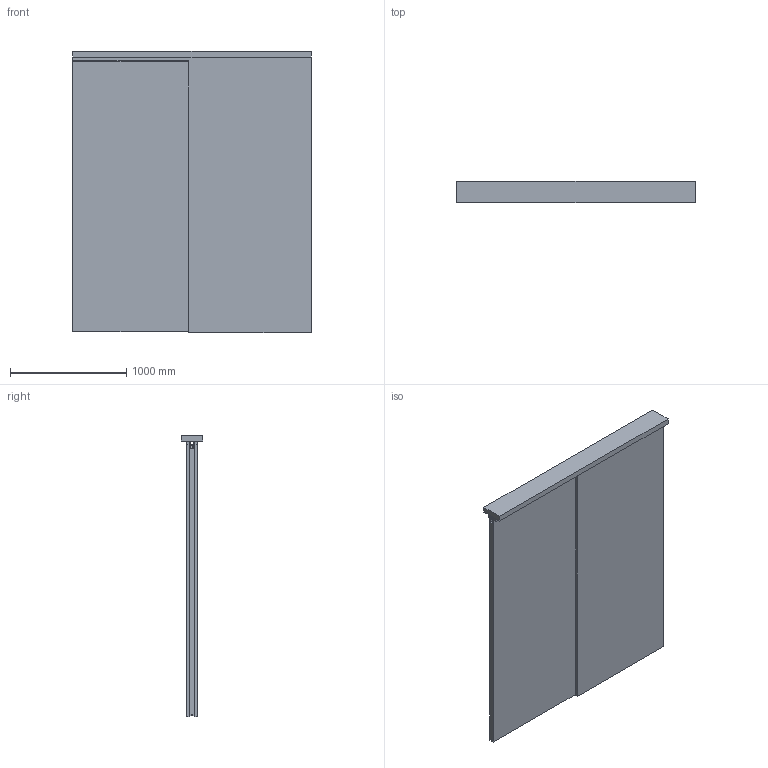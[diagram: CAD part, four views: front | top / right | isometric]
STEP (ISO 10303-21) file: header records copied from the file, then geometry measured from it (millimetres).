
FILE_DESCRIPTION(('STEP AP242'),'1');
FILE_NAME('OPO_65.080.12_volu_schn_3d.stp','2026-01-14T05:26:08',(' '),(' '),'Spatial InterOp 3D',' ',' ');
FILE_SCHEMA(('AP242_MANAGED_MODEL_BASED_3D_ENGINEERING_MIM_LF {1 0 10303 442 1 1 4}'));
Length unit declared in the file: millimetre
Products named in the file (1): 1
Bounding box: 2050 x 188 x 2418 mm (x, y, z)
Volume: 213877909.6 mm3; surface area: 17150395.4 mm2
Topology: 5 solids, 5 shells, 118 faces, 2310 edges, 4157 vertices
Faces by surface type: plane 94, cylinder 24
Entity records: 29177 total; most frequent: CARTESIAN_POINT 3000, DIRECTION 2853, STYLED_ITEM 2118, PRESENTATION_STYLE_ASSIGNMENT 2118, COLOUR_RGB 2118, COMPOSITE_CURVE 2000, CURVE_STYLE 2000, COMPOSITE_CURVE_SEGMENT 2000
